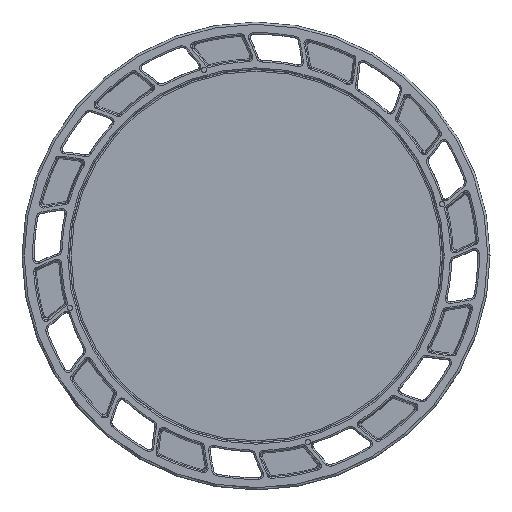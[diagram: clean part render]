
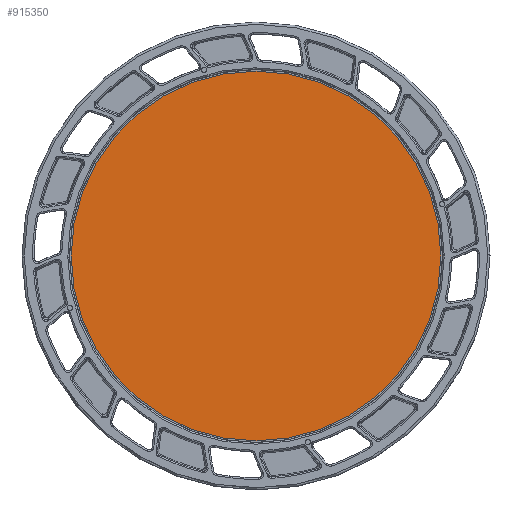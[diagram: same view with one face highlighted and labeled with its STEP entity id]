
A CAD part, left-side view. The second image highlights one B-rep face of the part: STEP entity #915350.
In plain terms, the highlighted planar face has unit normal (-1, 0, 0) as drawn and (0, 0, 1) by its records, which use the part's own axes.
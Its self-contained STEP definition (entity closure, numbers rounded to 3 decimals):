
#915020=CARTESIAN_POINT('',(-14.164,-134.758,58.5));
#915030=VERTEX_POINT('',#915020);
#915060=CARTESIAN_POINT('',(0.,0.,58.5));
#915070=DIRECTION('',(0.,0.,1.));
#915080=DIRECTION('',(0.105,0.995,0.));
#915090=AXIS2_PLACEMENT_3D('',#915060,#915070,#915080);
#915100=CIRCLE('',#915090,135.5);
#915110=CARTESIAN_POINT('',(14.164,134.758,58.5));
#915120=VERTEX_POINT('',#915110);
#915130=EDGE_CURVE('',#915030,#915120,#915100,.T.);
#915250=CARTESIAN_POINT('',(0.,0.,58.5));
#915260=DIRECTION('',(-0.,0.,-1.));
#915270=DIRECTION('',(-0.105,-0.995,0.));
#915280=AXIS2_PLACEMENT_3D('',#915250,#915260,#915270);
#915290=PLANE('',#915280);
#915300=EDGE_CURVE('',#915120,#915030,#915100,.T.);
#915310=ORIENTED_EDGE('',*,*,#915300,.T.);
#915320=ORIENTED_EDGE('',*,*,#915130,.T.);
#915330=EDGE_LOOP('',(#915320,#915310));
#915340=FACE_OUTER_BOUND('',#915330,.T.);
#915350=ADVANCED_FACE('',(#915340),#915290,.F.);
